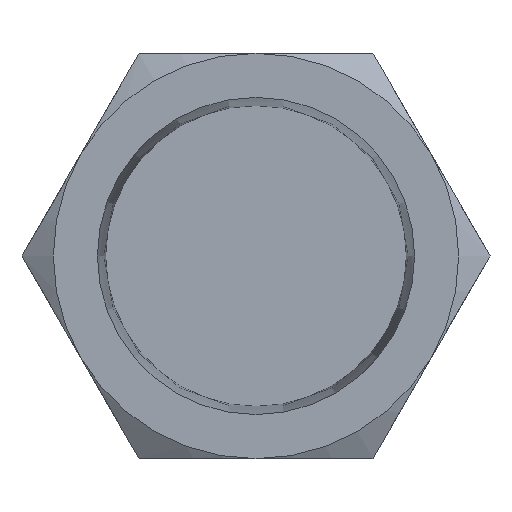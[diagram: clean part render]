
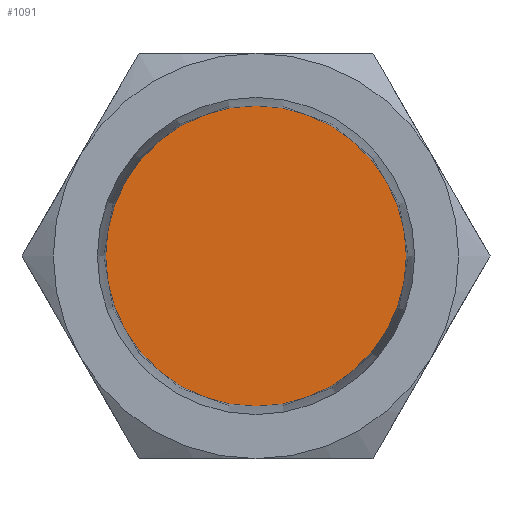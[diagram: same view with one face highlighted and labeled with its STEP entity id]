
A CAD part, front view. The second image highlights one B-rep face of the part: STEP entity #1091.
In plain terms, the highlighted planar face has unit normal (0, -1, 0).
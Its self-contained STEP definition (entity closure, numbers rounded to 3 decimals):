
#1075=CARTESIAN_POINT('',(-3.153,11.0,0.0));
#1076=DIRECTION('',(0.0,-1.0,0.0));
#1077=DIRECTION('',(0.0,0.0,-1.0));
#1078=AXIS2_PLACEMENT_3D('',#1075,#1076,#1077);
#1079=PLANE('',#1078);
#1080=CARTESIAN_POINT('',(-6.306,11.0,0.0));
#1081=VERTEX_POINT('',#1080);
#1082=CARTESIAN_POINT('',(0.0,11.0,0.0));
#1083=DIRECTION('',(0.0,1.0,0.0));
#1084=DIRECTION('',(-1.0,0.0,0.0));
#1085=AXIS2_PLACEMENT_3D('',#1082,#1083,#1084);
#1086=CIRCLE('',#1085,6.306);
#1087=EDGE_CURVE('',#1081,#1081,#1086,.T.);
#1088=ORIENTED_EDGE('',*,*,#1087,.F.);
#1089=EDGE_LOOP('',(#1088));
#1090=FACE_OUTER_BOUND('',#1089,.T.);
#1091=ADVANCED_FACE('',(#1090),#1079,.T.);
